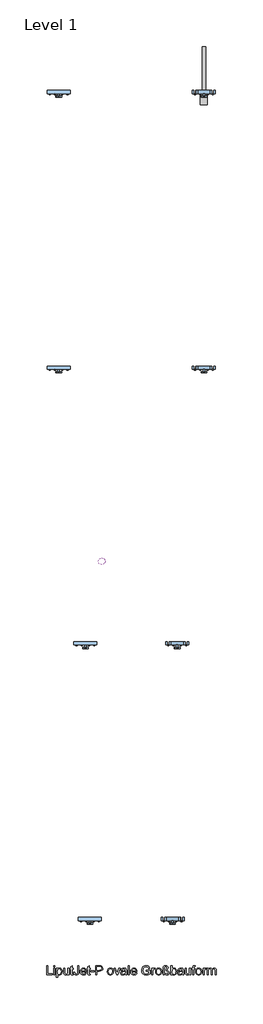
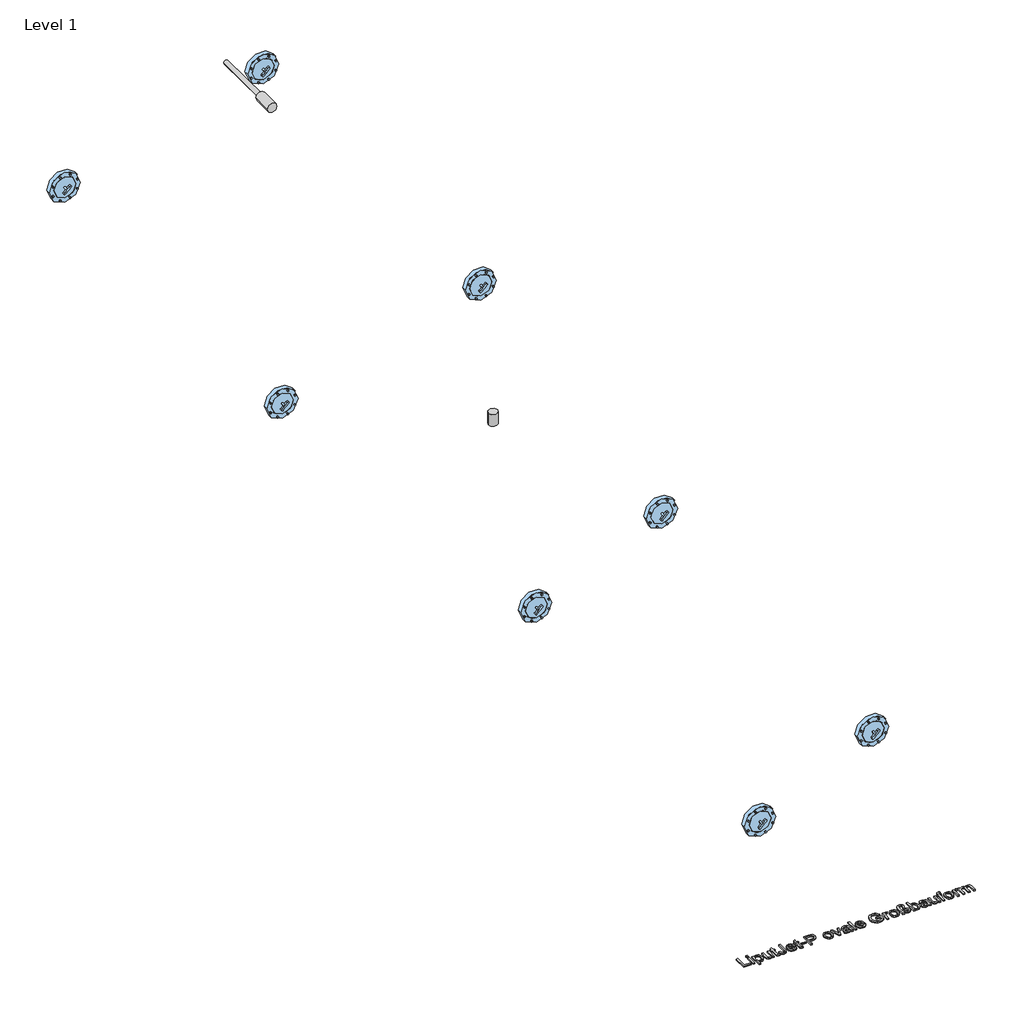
# One storey, part 1 of 2: 8 windows, 2 unitary equipment elements, 1 proxy.
"""IFC4 building model written with IfcOpenShell, lengths in millimetres."""

from ifc_helpers import new_model, si_unit, origin, origin_with_axes, place, context, project, spatial, polyline, outline, extrude, transform, mapped, element, save
from components import ns20_de95ed54, std_bcf9d813, std_43f00bc0

model = new_model("IFC4")

# Units and contexts
model_context = context("Model", 3, world=origin())
ifc_project = project(units=[si_unit("LENGTHUNIT", "METRE", prefix="MILLI")], contexts=[model_context])

# Site, building, storey
site = spatial("IfcSite", under=ifc_project)
building = spatial("IfcBuilding", under=site)
storey = spatial("IfcBuildingStorey", under=building, Name="Level 1", Elevation=0.0)

# Proxy
placement = place(None, origin())
element("IfcBuildingElementProxy", 1, Name="100mm ACO", ObjectType="100mm ACO", at=placement, inside=storey, context=model_context, shape_type="SweptSolid", body=[
    extrude(outline(polyline([(140.7407407, -350.0), (77.7777778, -350.0), (77.7777778, -250.0), (90.7407407, -250.0), (90.7407407, -338.8888889), (140.7407407, -338.8888889), (140.7407407, -350.0)])), origin_with_axes(), (0.0, 0.0, 1.0), 10.0),
    extrude(outline(polyline([(166.6666667, -350.0), (153.7037037, -350.0), (153.7037037, -277.7777778), (166.6666667, -277.7777778), (166.6666667, -350.0)])), origin_with_axes(), (0.0, 0.0, 1.0), 10.0),
    extrude(outline(polyline([(166.6666667, -262.962963), (153.7037037, -262.962963), (153.7037037, -250.0), (166.6666667, -250.0), (166.6666667, -262.962963)])), origin_with_axes(), (0.0, 0.0, 1.0), 10.0),
    extrude(outline(polyline([(198.2783565, -286.4872685), (206.7346644, -278.5662616), (218.4027778, -275.9259259), (230.7291667, -278.515625), (240.162037, -286.2847222), (246.1516204, -298.2132523), (248.1481481, -313.28125), (245.8912037, -329.1702836), (239.1203704, -341.4207176), (229.0653935, -349.2440683), (216.9560185, -351.8518519), (206.5827546, -349.7251157), (198.4953704, -343.3449074), (198.1481481, -377.7777778), (185.1851852, -377.7777778), (185.1851852, -277.7777778), (198.1481481, -277.7777778), (198.2783565, -286.4872685)]), holes=[polyline([(215.5381944, -342.5925926), (223.3109086, -340.766059), (229.615162, -335.2864583), (233.7926794, -326.1899595), (235.1851852, -313.5127315), (233.843316, -301.4359086), (229.8177083, -292.5202546), (223.7015336, -287.0189525), (216.087963, -285.1851852), (208.2067419, -287.2287326), (201.8663194, -293.359375), (197.6888021, -302.7452257), (196.2962963, -314.5543981), (197.6309317, -326.66739), (201.634838, -335.4600694), (207.7799479, -340.8094618), (215.5381944, -342.5925926)])]), origin_with_axes(), (0.0, 0.0, 1.0), 10.0),
    extrude(outline(polyline([(322.2222222, -350.0), (311.1111111, -350.0), (311.1111111, -339.4965278), (300.8680556, -348.7630208), (287.9050926, -351.8518519), (273.7847222, -348.3362269), (265.1331019, -338.6574074), (262.962963, -322.65625), (262.962963, -277.7777778), (275.9259259, -277.7777778), (275.9259259, -318.75), (276.8229167, -332.8414352), (281.5104167, -339.84375), (290.5381944, -342.5925926), (303.2841435, -337.6736111), (307.7654803, -330.1215278), (309.2592593, -317.3032407), (309.2592593, -277.7777778), (322.2222222, -277.7777778), (322.2222222, -350.0)])), origin_with_axes(), (0.0, 0.0, 1.0), 10.0),
    extrude(outline(polyline([(368.5185185, -351.0127315), (359.4328704, -351.8518519), (347.8443287, -348.9728009), (343.4027778, -341.6666667), (342.5925926, -329.3402778), (342.5925926, -287.037037), (333.3333333, -287.037037), (333.3333333, -277.7777778), (342.5925926, -277.7777778), (342.5925926, -259.4328704), (355.5555556, -251.8518519), (355.5555556, -277.7777778), (366.6666667, -277.7777778), (366.6666667, -287.037037), (355.5555556, -287.037037), (355.5555556, -331.9444444), (356.5972222, -340.162037), (361.8923611, -342.5925926), (366.9270833, -342.5925926), (368.5185185, -351.0127315)])), origin_with_axes(), (0.0, 0.0, 1.0), 10.0),
    extrude(outline(polyline([(429.6296296, -318.1134259), (427.7560764, -333.8143808), (422.1354167, -344.1695602), (413.1727431, -349.9312789), (401.2731481, -351.8518519), (389.3735532, -349.9891493), (380.8738426, -344.4010417), (375.7740162, -335.0730613), (374.0740741, -321.9907407), (387.037037, -320.3703704), (390.8998843, -335.6481481), (401.9675926, -340.7407407), (411.9068287, -337.5), (415.9143519, -330.0202546), (416.6666667, -319.4444444), (416.6666667, -250.0), (429.6296296, -250.0), (429.6296296, -318.1134259)])), origin_with_axes(), (0.0, 0.0, 1.0), 10.0),
    extrude(outline(polyline([(511.1111111, -316.6666667), (457.4074074, -316.6666667), (459.47989, -327.7922454), (464.1927083, -335.9375), (470.9743924, -340.9288194), (479.2534722, -342.5925926), (490.9288194, -338.9033565), (498.1481481, -327.7777778), (511.1111111, -329.2824074), (506.7346644, -338.9033565), (499.7974537, -346.0069444), (490.552662, -350.390625), (479.2534722, -351.8518519), (464.666522, -349.3453414), (453.6603009, -341.8258102), (446.7484086, -329.9660012), (444.4444444, -314.4386574), (446.6652199, -298.900463), (453.3275463, -286.6030093), (464.026331, -278.5951968), (478.3564815, -275.9259259), (493.5763889, -279.3836806), (506.0040509, -291.1603009), (509.8343461, -301.6963252), (511.1111111, -316.6666667)]), holes=[polyline([(498.1481481, -307.4074074), (496.0648148, -297.2511574), (491.3194444, -290.3935185), (478.0381944, -285.1851852), (470.1822917, -286.7332176), (463.8599537, -291.3773148), (457.4074074, -307.4074074), (498.1481481, -307.4074074)])]), origin_with_axes(), (0.0, 0.0, 1.0), 10.0),
    extrude(outline(polyline([(553.7037037, -351.0127315), (544.6180556, -351.8518519), (533.0295139, -348.9728009), (528.587963, -341.6666667), (527.7777778, -329.3402778), (527.7777778, -287.037037), (518.5185185, -287.037037), (518.5185185, -277.7777778), (527.7777778, -277.7777778), (527.7777778, -259.4328704), (540.7407407, -251.8518519), (540.7407407, -277.7777778), (551.8518519, -277.7777778), (551.8518519, -287.037037), (540.7407407, -287.037037), (540.7407407, -331.9444444), (541.7824074, -340.162037), (547.0775463, -342.5925926), (552.1122685, -342.5925926), (553.7037037, -351.0127315)])), origin_with_axes(), (0.0, 0.0, 1.0), 10.0),
    extrude(outline(polyline([(598.1481481, -316.6666667), (559.2592593, -316.6666667), (559.2592593, -307.4074074), (598.1481481, -307.4074074), (598.1481481, -316.6666667)])), origin_with_axes(), (0.0, 0.0, 1.0), 10.0),
    extrude(outline(polyline([(612.962963, -250.0), (650.5208333, -250.0), (665.8275463, -250.8825231), (677.7488426, -255.46875), (686.0677083, -265.5237269), (688.8888889, -278.8194444), (686.6644965, -291.2507234), (679.9913194, -300.9403935), (668.4136285, -307.1795428), (651.4756944, -309.2592593), (625.9259259, -309.2592593), (625.9259259, -350.0), (612.962963, -350.0), (612.962963, -250.0)]), holes=[polyline([(625.9259259, -298.1481481), (651.9965278, -298.1481481), (669.9435764, -293.4100116), (674.4303385, -287.4873409), (675.9259259, -279.1956019), (672.8153935, -268.2146991), (665.1765046, -262.2829861), (651.7071759, -261.1111111), (625.9259259, -261.1111111), (625.9259259, -298.1481481)])]), origin_with_axes(), (0.0, 0.0, 1.0), 10.0),
    extrude(outline(polyline([(772.193287, -275.9259259), (785.369647, -278.3203125), (796.0792824, -285.5034722), (803.1864873, -297.0992477), (805.5555556, -312.7314815), (802.9911748, -331.0040509), (795.2980324, -342.9976852), (784.3930845, -349.6383102), (772.193287, -351.8518519), (759.6028646, -349.5768229), (748.7991898, -342.7517361), (741.3664641, -330.9859664), (738.8888889, -313.8888889), (741.2832755, -297.1715856), (748.4664352, -285.3298611), (759.1869213, -278.2769097), (772.193287, -275.9259259)]), holes=[polyline([(772.193287, -342.5925926), (781.000434, -340.5852141), (787.3987269, -334.5630787), (792.5925926, -313.4259259), (791.1241319, -301.1429398), (786.71875, -292.3032407), (780.150463, -286.9646991), (772.193287, -285.1851852), (764.0805845, -286.9900174), (757.5665509, -292.4045139), (753.2805266, -301.3925058), (751.8518519, -313.9178241), (753.3058449, -326.3997396), (757.6678241, -335.3732639), (764.2071759, -340.7877604), (772.193287, -342.5925926)])]), origin_with_axes(), (0.0, 0.0, 1.0), 10.0),
    extrude(outline(polyline([(877.7777778, -277.7777778), (851.9386574, -350.0), (840.7986111, -350.0), (812.962963, -277.7777778), (824.6527778, -277.7777778), (840.1331019, -319.5891204), (845.3703704, -335.6770833), (849.3923611, -323.9583333), (866.087963, -277.7777778), (877.7777778, -277.7777778)])), origin_with_axes(), (0.0, 0.0, 1.0), 10.0),
    extrude(outline(polyline([(951.8518519, -350.0), (938.8888889, -350.0), (935.1851852, -341.2615741), (922.692419, -349.2042824), (909.2303241, -351.8518519), (899.2440683, -350.4050926), (891.6232639, -346.0648148), (886.7947049, -339.3518519), (885.1851852, -330.787037), (886.7621528, -322.479022), (891.4930556, -315.7841435), (900.1229745, -310.8904803), (913.3969907, -307.9861111), (924.7395833, -306.25), (935.1851852, -303.7037037), (934.8524306, -295.6741898), (932.9137731, -290.7986111), (927.7488426, -286.7332176), (918.1712963, -285.1851852), (906.0908565, -288.3246528), (900.0, -300.0), (887.037037, -298.4085648), (890.5924479, -288.599537), (897.265625, -281.568287), (907.0493345, -277.3365162), (919.9363426, -275.9259259), (939.1927083, -279.7887731), (946.7447917, -289.1059028), (948.1481481, -303.1539352), (948.1481481, -319.6759259), (948.6979167, -339.9305556), (951.8518519, -350.0)]), holes=[polyline([(935.1851852, -317.5925926), (935.1851852, -312.962963), (911.9068287, -318.287037), (901.5878183, -322.3451968), (898.1481481, -330.5844907), (901.8518519, -339.2071759), (912.5289352, -342.5925926), (928.3420139, -336.9212963), (933.4743924, -329.2534722), (935.1851852, -317.5925926)])]), origin_with_axes(), (0.0, 0.0, 1.0), 10.0),
    extrude(outline(polyline([(979.6296296, -350.0), (966.6666667, -350.0), (966.6666667, -250.0), (979.6296296, -250.0), (979.6296296, -350.0)])), origin_with_axes(), (0.0, 0.0, 1.0), 10.0),
    extrude(outline(polyline([(1061.1111111, -316.6666667), (1007.4074074, -316.6666667), (1009.47989, -327.7922454), (1014.1927083, -335.9375), (1020.9743924, -340.9288194), (1029.2534722, -342.5925926), (1040.9288194, -338.9033565), (1048.1481481, -327.7777778), (1061.1111111, -329.2824074), (1056.7346644, -338.9033565), (1049.7974537, -346.0069444), (1040.552662, -350.390625), (1029.2534722, -351.8518519), (1014.666522, -349.3453414), (1003.6603009, -341.8258102), (996.7484086, -329.9660012), (994.4444444, -314.4386574), (996.6652199, -298.900463), (1003.3275463, -286.6030093), (1014.026331, -278.5951968), (1028.3564815, -275.9259259), (1043.5763889, -279.3836806), (1056.0040509, -291.1603009), (1059.8343461, -301.6963252), (1061.1111111, -316.6666667)]), holes=[polyline([(1048.1481481, -307.4074074), (1046.0648148, -297.2511574), (1041.3194444, -290.3935185), (1028.0381944, -285.1851852), (1020.1822917, -286.7332176), (1013.8599537, -291.3773148), (1007.4074074, -307.4074074), (1048.1481481, -307.4074074)])]), origin_with_axes(), (0.0, 0.0, 1.0), 10.0),
    extrude(outline(polyline([(1203.7037037, -336.6608796), (1184.2954282, -348.0541088), (1163.1655093, -351.8518519), (1142.7842882, -348.3362269), (1126.7795139, -337.7893519), (1116.4171007, -321.412037), (1112.962963, -300.4050926), (1118.5908565, -273.900463), (1125.5533854, -263.0135995), (1135.1851852, -254.8900463), (1147.3741319, -249.8336227), (1162.0081019, -248.1481481), (1176.8446181, -250.0217014), (1188.4259259, -255.6423611), (1196.7592593, -265.0028935), (1201.8518519, -278.0960648), (1188.8888889, -281.4814815), (1185.1309317, -271.7773437), (1179.2390046, -264.8292824), (1171.2131076, -260.651765), (1161.0532407, -259.2592593), (1145.7935475, -262.0659722), (1134.7945602, -270.4861111), (1128.1430845, -283.4490741), (1125.9259259, -299.8842593), (1130.3096065, -322.4971065), (1143.3159722, -336.1255787), (1162.0659722, -340.7407407), (1176.9314236, -337.9340278), (1190.7407407, -329.5138889), (1190.7407407, -309.2592593), (1161.1111111, -309.2592593), (1161.1111111, -298.1481481), (1203.7037037, -298.1481481), (1203.7037037, -336.6608796)])), origin_with_axes(), (0.0, 0.0, 1.0), 10.0),
    extrude(outline(polyline([(1261.1111111, -278.7615741), (1257.0601852, -287.037037), (1248.5532407, -285.1851852), (1242.7589699, -286.8127894), (1238.5706019, -291.6956019), (1235.1851852, -309.9247685), (1235.1851852, -350.0), (1222.2222222, -350.0), (1222.2222222, -277.7777778), (1233.3333333, -277.7777778), (1233.3333333, -288.4837963), (1240.2633102, -279.0653935), (1248.6979167, -275.9259259), (1261.1111111, -278.7615741)])), origin_with_axes(), (0.0, 0.0, 1.0), 10.0),
    extrude(outline(polyline([(1298.119213, -275.9259259), (1311.2955729, -278.3203125), (1322.0052083, -285.5034722), (1329.1124132, -297.0992477), (1331.4814815, -312.7314815), (1328.9171007, -331.0040509), (1321.2239583, -342.9976852), (1310.3190104, -349.6383102), (1298.119213, -351.8518519), (1285.5287905, -349.5768229), (1274.7251157, -342.7517361), (1267.29239, -330.9859664), (1264.8148148, -313.8888889), (1267.2092014, -297.1715856), (1274.3923611, -285.3298611), (1285.1128472, -278.2769097), (1298.119213, -275.9259259)]), holes=[polyline([(1298.119213, -342.5925926), (1306.92636, -340.5852141), (1313.3246528, -334.5630787), (1318.5185185, -313.4259259), (1317.0500579, -301.1429398), (1312.6446759, -292.3032407), (1306.0763889, -286.9646991), (1298.119213, -285.1851852), (1290.0065104, -286.9900174), (1283.4924769, -292.4045139), (1279.2064525, -301.3925058), (1277.7777778, -313.9178241), (1279.2317708, -326.3997396), (1283.59375, -335.3732639), (1290.1331019, -340.7877604), (1298.119213, -342.5925926)])]), origin_with_axes(), (0.0, 0.0, 1.0), 10.0),
    extrude(outline(polyline([(1346.2962963, -350.0), (1346.2962963, -281.7708333), (1349.2621528, -262.572338), (1359.4328704, -251.8084491), (1375.0, -248.1481481), (1385.1598669, -249.5840567), (1393.1278935, -253.8917824), (1398.2819734, -260.2322049), (1400.0, -267.7662037), (1396.7592593, -280.9027778), (1393.287037, -286.5740741), (1390.7407407, -294.3865741), (1392.5925926, -301.5769676), (1402.4594907, -309.1145833), (1413.9612269, -318.677662), (1416.6666667, -328.8773148), (1414.8907697, -337.6446759), (1409.5630787, -345.0810185), (1401.5299479, -350.1591435), (1391.6377315, -351.8518519), (1377.0182292, -347.6056134), (1366.6666667, -334.8668981), (1379.1666667, -329.6296296), (1385.2068866, -339.3518519), (1392.1006944, -342.5925926), (1400.2604167, -338.6863426), (1403.7037037, -329.5138889), (1402.4884259, -322.8153935), (1395.9780093, -317.3032407), (1381.5827546, -306.6984954), (1377.7777778, -297.5694444), (1378.7181713, -291.5075231), (1382.5810185, -283.8831019), (1386.9791667, -273.9293981), (1387.037037, -268.8946759), (1383.4201389, -260.6915509), (1374.3923611, -257.4074074), (1363.2523148, -262.4710648), (1359.2592593, -281.6840278), (1359.2592593, -350.0), (1346.2962963, -350.0)])), origin_with_axes(), (0.0, 0.0, 1.0), 10.0),
    extrude(outline(polyline([(1444.6180556, -284.9247685), (1452.9803241, -278.1756366), (1464.0625, -275.9259259), (1476.4865451, -278.4722222), (1486.1545139, -286.1111111), (1492.3719618, -297.8587963), (1494.4444444, -312.7314815), (1492.1657986, -329.4668692), (1485.3298611, -341.7679398), (1475.4412616, -349.3308738), (1464.0046296, -351.8518519), (1452.9875579, -349.3778935), (1444.7048611, -341.9560185), (1444.4444444, -350.0), (1431.4814815, -350.0), (1431.4814815, -250.0), (1444.4444444, -250.0), (1444.6180556, -284.9247685)]), holes=[polyline([(1462.7893519, -342.5925926), (1470.20761, -340.7009549), (1476.2008102, -335.0260417), (1480.1613137, -325.9295428), (1481.4814815, -313.7731481), (1476.6203704, -292.896412), (1470.8333333, -287.1129919), (1463.1944444, -285.1851852), (1455.5700231, -287.1744792), (1449.5949074, -293.1423611), (1444.4444444, -313.28125), (1446.5856481, -330.2372685), (1453.0381944, -338.9322917), (1462.7893519, -342.5925926)])]), origin_with_axes(), (0.0, 0.0, 1.0), 10.0),
    extrude(outline(polyline([(1572.2222222, -350.0), (1559.2592593, -350.0), (1555.5555556, -341.2615741), (1543.0627894, -349.2042824), (1529.6006944, -351.8518519), (1519.6144387, -350.4050926), (1511.9936343, -346.0648148), (1507.1650752, -339.3518519), (1505.5555556, -330.787037), (1507.1325231, -322.479022), (1511.8634259, -315.7841435), (1520.4933449, -310.8904803), (1533.7673611, -307.9861111), (1545.1099537, -306.25), (1555.5555556, -303.7037037), (1555.2228009, -295.6741898), (1553.2841435, -290.7986111), (1548.119213, -286.7332176), (1538.5416667, -285.1851852), (1526.4612269, -288.3246528), (1520.3703704, -300.0), (1507.4074074, -298.4085648), (1510.9628183, -288.599537), (1517.6359954, -281.568287), (1527.4197049, -277.3365162), (1540.306713, -275.9259259), (1559.5630787, -279.7887731), (1567.115162, -289.1059028), (1568.5185185, -303.1539352), (1568.5185185, -319.6759259), (1569.068287, -339.9305556), (1572.2222222, -350.0)]), holes=[polyline([(1555.5555556, -317.5925926), (1555.5555556, -312.962963), (1532.2771991, -318.287037), (1521.9581887, -322.3451968), (1518.5185185, -330.5844907), (1522.2222222, -339.2071759), (1532.8993056, -342.5925926), (1548.7123843, -336.9212963), (1553.8447627, -329.2534722), (1555.5555556, -317.5925926)])]), origin_with_axes(), (0.0, 0.0, 1.0), 10.0),
    extrude(outline(polyline([(1646.2962963, -350.0), (1635.1851852, -350.0), (1635.1851852, -339.4965278), (1624.9421296, -348.7630208), (1611.9791667, -351.8518519), (1597.8587963, -348.3362269), (1589.2071759, -338.6574074), (1587.037037, -322.65625), (1587.037037, -277.7777778), (1600.0, -277.7777778), (1600.0, -318.75), (1600.8969907, -332.8414352), (1605.5844907, -339.84375), (1614.6122685, -342.5925926), (1627.3582176, -337.6736111), (1631.8395544, -330.1215278), (1633.3333333, -317.3032407), (1633.3333333, -277.7777778), (1646.2962963, -277.7777778), (1646.2962963, -350.0)])), origin_with_axes(), (0.0, 0.0, 1.0), 10.0),
    extrude(outline(polyline([(1698.1481481, -249.1030093), (1696.556713, -257.4074074), (1690.2488426, -257.4074074), (1683.9409722, -259.5341435), (1681.4814815, -270.0520833), (1681.4814815, -277.7777778), (1692.5925926, -277.7777778), (1692.5925926, -287.037037), (1681.4814815, -287.037037), (1681.4814815, -350.0), (1668.5185185, -350.0), (1668.5185185, -287.037037), (1657.4074074, -287.037037), (1657.4074074, -277.7777778), (1668.5185185, -277.7777778), (1668.5185185, -269.849537), (1669.4878472, -259.8668981), (1674.5949074, -251.7650463), (1687.3553241, -248.1481481), (1698.1481481, -249.1030093)])), origin_with_axes(), (0.0, 0.0, 1.0), 10.0),
    extrude(outline(polyline([(1733.3043981, -275.9259259), (1746.4807581, -278.3203125), (1757.1903935, -285.5034722), (1764.2975984, -297.0992477), (1766.6666667, -312.7314815), (1764.1022859, -331.0040509), (1756.4091435, -342.9976852), (1745.5041956, -349.6383102), (1733.3043981, -351.8518519), (1720.7139757, -349.5768229), (1709.9103009, -342.7517361), (1702.4775752, -330.9859664), (1700.0, -313.8888889), (1702.3943866, -297.1715856), (1709.5775463, -285.3298611), (1720.2980324, -278.2769097), (1733.3043981, -275.9259259)]), holes=[polyline([(1733.3043981, -342.5925926), (1742.1115451, -340.5852141), (1748.509838, -334.5630787), (1753.7037037, -313.4259259), (1752.2352431, -301.1429398), (1747.8298611, -292.3032407), (1741.2615741, -286.9646991), (1733.3043981, -285.1851852), (1725.1916956, -286.9900174), (1718.677662, -292.4045139), (1714.3916377, -301.3925058), (1712.962963, -313.9178241), (1714.416956, -326.3997396), (1718.7789352, -335.3732639), (1725.318287, -340.7877604), (1733.3043981, -342.5925926)])]), origin_with_axes(), (0.0, 0.0, 1.0), 10.0),
    extrude(outline(polyline([(1820.3703704, -278.7615741), (1816.3194444, -287.037037), (1807.8125, -285.1851852), (1802.0182292, -286.8127894), (1797.8298611, -291.6956019), (1794.4444444, -309.9247685), (1794.4444444, -350.0), (1781.4814815, -350.0), (1781.4814815, -277.7777778), (1792.5925926, -277.7777778), (1792.5925926, -288.4837963), (1799.5225694, -279.0653935), (1807.9571759, -275.9259259), (1820.3703704, -278.7615741)])), origin_with_axes(), (0.0, 0.0, 1.0), 10.0),
    extrude(outline(polyline([(1924.0740741, -350.0), (1911.1111111, -350.0), (1911.1111111, -303.2986111), (1910.4600694, -294.4878472), (1907.0746528, -288.0063657), (1898.5532407, -285.1851852), (1886.5451389, -290.3356481), (1882.7473958, -297.0920139), (1881.4814815, -307.0601852), (1881.4814815, -350.0), (1868.5185185, -350.0), (1868.5185185, -301.9097222), (1865.3356481, -288.744213), (1856.3078704, -285.1851852), (1843.7789352, -290.7552083), (1840.1114005, -298.7521701), (1838.8888889, -311.6030093), (1838.8888889, -350.0), (1825.9259259, -350.0), (1825.9259259, -277.7777778), (1837.037037, -277.7777778), (1837.037037, -287.6736111), (1846.4192708, -278.8628472), (1858.9699074, -275.9259259), (1872.1498843, -279.0943287), (1879.6296296, -288.6284722), (1889.1493056, -279.1015625), (1901.7361111, -275.9259259), (1911.5089699, -277.4450231), (1918.4895833, -282.0023148), (1922.6779514, -289.5978009), (1924.0740741, -300.2314815), (1924.0740741, -350.0)])), origin_with_axes(), (0.0, 0.0, 1.0), 10.0),
])

# Unitary equipment
ns20_shape = ns20_de95ed54(model_context)
element("IfcUnitaryEquipment", 2, ObjectType="ME_PE_UN_oval big LipuJet-P-OD extension stage 1_ACO : NS20", at=placement, inside=storey, context=model_context, shape_type="MappedRepresentation", body=[
    mapped(ns20_shape, transform((1000.0, 3850.0, 0.0), x_axis=(1.0, 0.0, 0.0), y_axis=(0.0, 1.0, 0.0), z_axis=(0.0, 0.0, 1.0))),
])
std_shape = std_bcf9d813(model_context)
element("IfcUnitaryEquipment", 3, ObjectType="ZZZ_do not use_ME_ST_WPB_heating rod_ACO : std", at=placement, inside=storey, context=model_context, shape_type="MappedRepresentation", body=[
    mapped(std_shape, transform((1790.0, 9250.0, 897.0), x_axis=(-1.0, 0.0, 0.0), y_axis=(0.0, 0.0, -1.0), z_axis=(0.0, -1.0, 0.0))),
])

# Windows
std_2_shape = std_43f00bc0(model_context)
element("IfcWindow", 4, ObjectType="ZZZ_do not use_ME_PE_WPB_viewing window LipuJet-P_ACO : std", at=placement, inside=storey, context=model_context, shape_type="MappedRepresentation", body=[
    mapped(std_2_shape, transform((550.0, 250.0, 705.0), x_axis=(-1.0, 0.0, 0.0), y_axis=(0.0, 0.0, -1.0), z_axis=(0.0, -1.0, 0.0))),
])
element("IfcWindow", 5, ObjectType="ZZZ_do not use_ME_PE_WPB_viewing window LipuJet-P_ACO : std", at=placement, inside=storey, context=model_context, shape_type="MappedRepresentation", body=[
    mapped(std_2_shape, transform((1450.0, 250.0, 1147.0), x_axis=(-1.0, 0.0, 0.0), y_axis=(0.0, 0.0, -1.0), z_axis=(0.0, -1.0, 0.0))),
])
element("IfcWindow", 6, ObjectType="ZZZ_do not use_ME_PE_WPB_viewing window LipuJet-P_ACO : std", at=placement, inside=storey, context=model_context, shape_type="MappedRepresentation", body=[
    mapped(std_2_shape, transform((500.0, 3250.0, 705.0), x_axis=(-1.0, 0.0, 0.0), y_axis=(0.0, 0.0, -1.0), z_axis=(0.0, -1.0, 0.0))),
])
element("IfcWindow", 7, ObjectType="ZZZ_do not use_ME_PE_WPB_viewing window LipuJet-P_ACO : std", at=placement, inside=storey, context=model_context, shape_type="MappedRepresentation", body=[
    mapped(std_2_shape, transform((1500.0, 3250.0, 1147.0), x_axis=(-1.0, 0.0, 0.0), y_axis=(0.0, 0.0, -1.0), z_axis=(0.0, -1.0, 0.0))),
])
element("IfcWindow", 8, ObjectType="ZZZ_do not use_ME_PE_WPB_viewing window LipuJet-P_ACO : std", at=placement, inside=storey, context=model_context, shape_type="MappedRepresentation", body=[
    mapped(std_2_shape, transform((210.0, 6250.0, 705.0), x_axis=(-1.0, 0.0, 0.0), y_axis=(0.0, 0.0, -1.0), z_axis=(0.0, -1.0, 0.0))),
])
element("IfcWindow", 9, ObjectType="ZZZ_do not use_ME_PE_WPB_viewing window LipuJet-P_ACO : std", at=placement, inside=storey, context=model_context, shape_type="MappedRepresentation", body=[
    mapped(std_2_shape, transform((1790.0, 6250.0, 1147.0), x_axis=(-1.0, 0.0, 0.0), y_axis=(0.0, 0.0, -1.0), z_axis=(0.0, -1.0, 0.0))),
])
element("IfcWindow", 10, ObjectType="ZZZ_do not use_ME_PE_WPB_viewing window LipuJet-P_ACO : std", at=placement, inside=storey, context=model_context, shape_type="MappedRepresentation", body=[
    mapped(std_2_shape, transform((210.0, 9250.0, 705.0), x_axis=(-1.0, 0.0, 0.0), y_axis=(0.0, 0.0, -1.0), z_axis=(0.0, -1.0, 0.0))),
])
element("IfcWindow", 11, ObjectType="ZZZ_do not use_ME_PE_WPB_viewing window LipuJet-P_ACO : std", at=placement, inside=storey, context=model_context, shape_type="MappedRepresentation", body=[
    mapped(std_2_shape, transform((1790.0, 9250.0, 1147.0), x_axis=(-1.0, 0.0, 0.0), y_axis=(0.0, 0.0, -1.0), z_axis=(0.0, -1.0, 0.0))),
])

save(model, "model.ifc")
